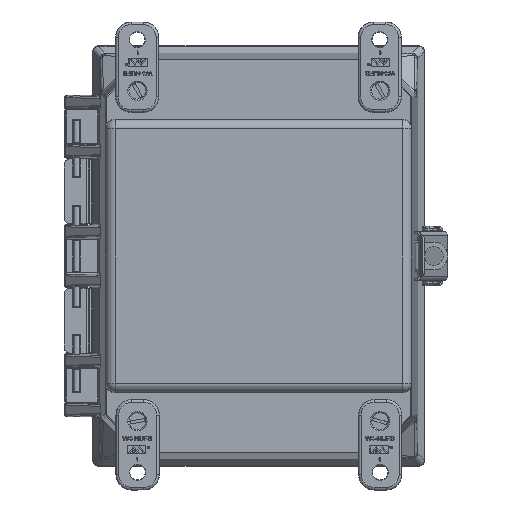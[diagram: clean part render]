
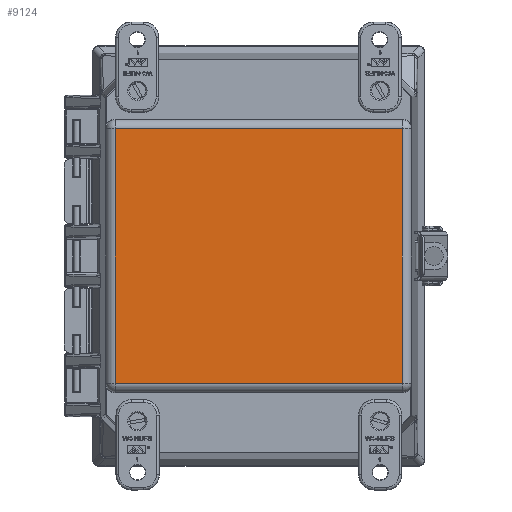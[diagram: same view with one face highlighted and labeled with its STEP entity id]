
A CAD part, front view. The second image highlights one B-rep face of the part: STEP entity #9124.
In plain terms, the highlighted planar face has unit normal (0, -1, 0).
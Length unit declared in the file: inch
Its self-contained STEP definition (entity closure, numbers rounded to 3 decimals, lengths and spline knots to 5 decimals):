
#1593 = CARTESIAN_POINT ( 'NONE',  ( -3.08539, -4.125, 2.56942 ) ) ;
#5541 = VERTEX_POINT ( 'NONE', #67781 ) ;
#6528 = EDGE_CURVE ( 'NONE', #5541, #35474, #119856, .T. ) ;
#7423 = LINE ( 'NONE', #8781, #53842 ) ;
#8781 = CARTESIAN_POINT ( 'NONE',  ( -2.90481, -4.125, -2.75 ) ) ;
#8811 = VERTEX_POINT ( 'NONE', #104322 ) ;
#9124 = ADVANCED_FACE ( 'NONE', ( #94769 ), #30799, .T. ) ;
#14727 = ORIENTED_EDGE ( 'NONE', *, *, #30046, .T. ) ;
#18075 = DIRECTION ( 'NONE',  ( 0., 0., -1. ) ) ;
#29522 = DIRECTION ( 'NONE',  ( -1., 0., 0. ) ) ;
#29627 = ORIENTED_EDGE ( 'NONE', *, *, #37396, .T. ) ;
#30046 = EDGE_CURVE ( 'NONE', #35474, #84396, #112966, .T. ) ;
#30799 = PLANE ( 'NONE',  #110623 ) ;
#34214 = EDGE_LOOP ( 'NONE', ( #29627, #94484, #51992, #14727 ) ) ;
#35474 = VERTEX_POINT ( 'NONE', #104192 ) ;
#37396 = EDGE_CURVE ( 'NONE', #84396, #8811, #67711, .T. ) ;
#38997 = VECTOR ( 'NONE', #77543, 39.37008 ) ;
#40004 = CARTESIAN_POINT ( 'NONE',  ( 3.08539, -4.125, -2.56942 ) ) ;
#40135 = DIRECTION ( 'NONE',  ( 0., 0., -1. ) ) ;
#42489 = CARTESIAN_POINT ( 'NONE',  ( 2.90481, -4.125, 2.56942 ) ) ;
#51992 = ORIENTED_EDGE ( 'NONE', *, *, #6528, .T. ) ;
#53842 = VECTOR ( 'NONE', #18075, 39.37008 ) ;
#61232 = EDGE_CURVE ( 'NONE', #8811, #5541, #7423, .T. ) ;
#67711 = LINE ( 'NONE', #1593, #114060 ) ;
#67781 = CARTESIAN_POINT ( 'NONE',  ( -2.90481, -4.125, -2.56942 ) ) ;
#75790 = CARTESIAN_POINT ( 'NONE',  ( -3.36, -4.125, -4.25 ) ) ;
#77242 = DIRECTION ( 'NONE',  ( 1., 0., 0. ) ) ;
#77543 = DIRECTION ( 'NONE',  ( 0., 0., 1. ) ) ;
#84396 = VERTEX_POINT ( 'NONE', #42489 ) ;
#94484 = ORIENTED_EDGE ( 'NONE', *, *, #61232, .T. ) ;
#94769 = FACE_OUTER_BOUND ( 'NONE', #34214, .T. ) ;
#95223 = VECTOR ( 'NONE', #77242, 39.37008 ) ;
#95604 = DIRECTION ( 'NONE',  ( 0., -1., 0. ) ) ;
#95750 = CARTESIAN_POINT ( 'NONE',  ( 2.90481, -4.125, 2.75 ) ) ;
#104192 = CARTESIAN_POINT ( 'NONE',  ( 2.90481, -4.125, -2.56942 ) ) ;
#104322 = CARTESIAN_POINT ( 'NONE',  ( -2.90481, -4.125, 2.56942 ) ) ;
#110623 = AXIS2_PLACEMENT_3D ( 'NONE', #75790, #95604, #40135 ) ;
#112966 = LINE ( 'NONE', #95750, #38997 ) ;
#114060 = VECTOR ( 'NONE', #29522, 39.37008 ) ;
#119856 = LINE ( 'NONE', #40004, #95223 ) ;
